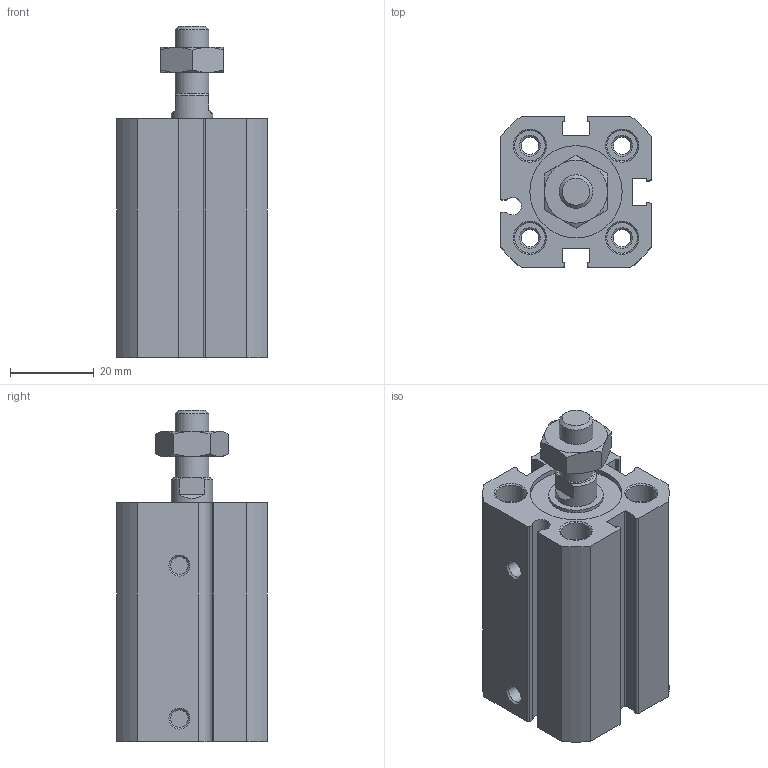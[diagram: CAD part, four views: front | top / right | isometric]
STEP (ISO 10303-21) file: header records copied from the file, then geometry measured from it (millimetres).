
FILE_DESCRIPTION( ( 'STEP AP214' ), '1' );
FILE_NAME( 'C:/Users/EMC02301/Desktop/RU0638 SF外牙 图纸/SF20X20-S-M.stp', '2026-07-24T09:20:36', ( 'License CC BY-ND 4.0' ), ( 'CADENAS' ), ' ', 'PARTsolutions', ' ' );
FILE_SCHEMA( ( 'AUTOMOTIVE_DESIGN { 1 0 10303 214 1 1 1 1 }' ) );
Length unit declared in the file: millimetre
Products named in the file (3): SF20X20-S-M()(00); _SF20X20()(_body) ; _SF20X20-M(rod-0)
Assembly tree (2 placements, depth 2):
  SF20X20-S-M()(00)
    _SF20X20()(_body) 
    _SF20X20-M(rod-0)
Bounding box: 36 x 36 x 79 mm (x, y, z)
Volume: 57988.5 mm3; surface area: 21990.5 mm2
Topology: 2 solids, 2 shells, 154 faces, 362 edges, 230 vertices
Faces by surface type: plane 65, cylinder 54, cone 35
Full cylindrical faces by diameter (mm): 4.134 x6, 7.3 x8, 8 x2, 10 x2, 13 x1, 20 x3, 22 x1
Entity records: 5568 total; most frequent: CARTESIAN_POINT 847, DIRECTION 748, ORIENTED_EDGE 630, EDGE_CURVE 315, AXIS2_PLACEMENT_3D 304, VERTEX_POINT 227, EDGE_LOOP 224, FACE_OUTER_BOUND 177
